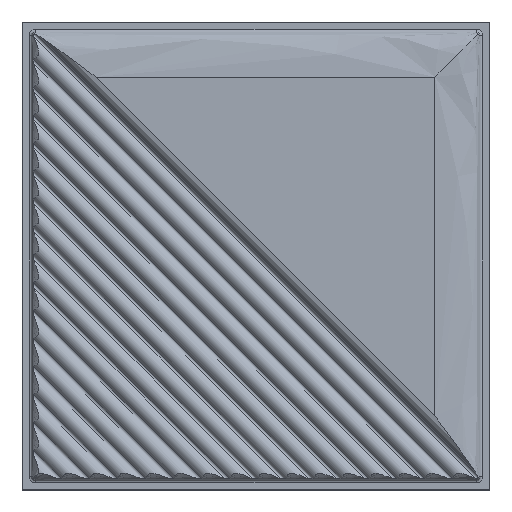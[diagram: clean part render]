
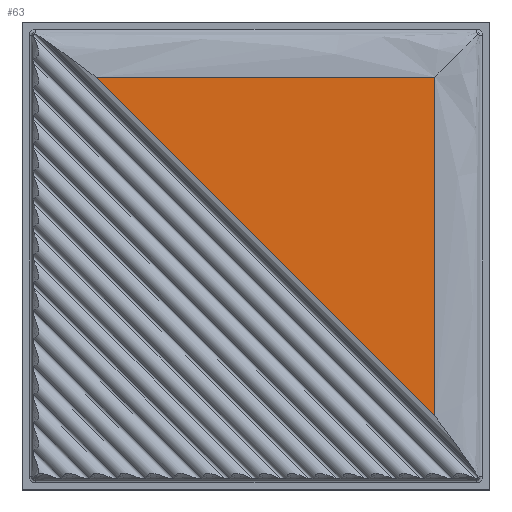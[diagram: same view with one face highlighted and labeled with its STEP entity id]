
A CAD part, top view. The second image highlights one B-rep face of the part: STEP entity #63.
In plain terms, the highlighted planar face has unit normal (0, 0, 1).
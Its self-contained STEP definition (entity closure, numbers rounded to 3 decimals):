
#63=ADVANCED_FACE('',(#128),#1071,.T.);
#128=FACE_OUTER_BOUND('',#194,.T.);
#194=EDGE_LOOP('',(#481,#482,#483));
#481=ORIENTED_EDGE('',*,*,#625,.T.);
#482=ORIENTED_EDGE('',*,*,#663,.T.);
#483=ORIENTED_EDGE('',*,*,#618,.T.);
#618=EDGE_CURVE('',#955,#954,#811,.T.);
#625=EDGE_CURVE('',#954,#961,#817,.T.);
#663=EDGE_CURVE('',#961,#955,#854,.T.);
#811=B_SPLINE_CURVE_WITH_KNOTS('',1,(#2532,#2533),.UNSPECIFIED.,.F.,.F.,
(2,2),(151.633,585.954),.UNSPECIFIED.);
#817=B_SPLINE_CURVE_WITH_KNOTS('',1,(#2582,#2583),.UNSPECIFIED.,.F.,.F.,
(2,2),(129.916,564.237),.UNSPECIFIED.);
#854=B_SPLINE_CURVE_WITH_KNOTS('',1,(#3256,#3257),.UNSPECIFIED.,.F.,.F.,
(2,2),(-696.866,-82.643),.UNSPECIFIED.);
#954=VERTEX_POINT('',#1657);
#955=VERTEX_POINT('',#1658);
#961=VERTEX_POINT('',#1664);
#1071=PLANE('',#1191);
#1191=AXIS2_PLACEMENT_3D('',#1403,#1234,$);
#1234=DIRECTION('',(0.,0.,1.));
#1403=CARTESIAN_POINT('',(-4543.312,-617.234,-10.));
#1657=CARTESIAN_POINT('',(-5252.252,-54.578,-10.));
#1658=CARTESIAN_POINT('',(-5252.252,-488.899,-10.));
#1664=CARTESIAN_POINT('',(-5686.573,-54.578,-10.));
#2532=CARTESIAN_POINT('',(-5252.252,-488.899,-10.));
#2533=CARTESIAN_POINT('',(-5252.252,-54.578,-10.));
#2582=CARTESIAN_POINT('',(-5252.252,-54.578,-10.));
#2583=CARTESIAN_POINT('',(-5686.573,-54.578,-10.));
#3256=CARTESIAN_POINT('',(-5686.573,-54.578,-10.));
#3257=CARTESIAN_POINT('',(-5252.252,-488.899,-10.));
